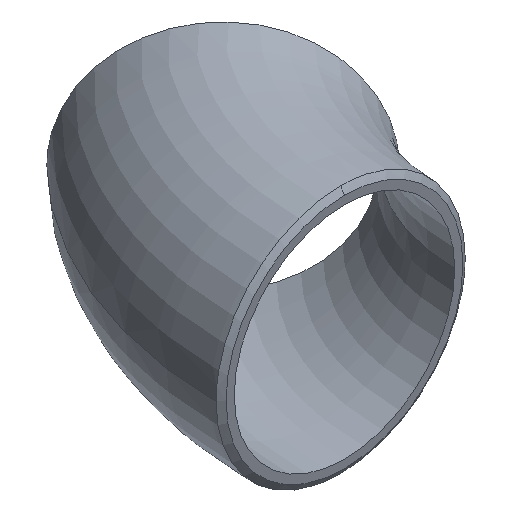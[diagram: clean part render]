
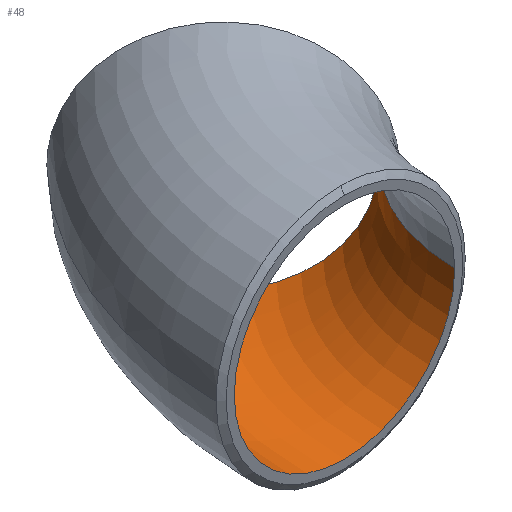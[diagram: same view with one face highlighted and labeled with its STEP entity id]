
A CAD part, isometric view. The second image highlights one B-rep face of the part: STEP entity #48.
In plain terms, the highlighted toroidal (fillet/blend) face has major radius 57.217 mm and minor radius 21.5 mm.
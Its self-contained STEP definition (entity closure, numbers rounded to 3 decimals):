
#19 = DIRECTION ( 'NONE',  ( 1., 0., 0. ) ) ;
#48 = ADVANCED_FACE ( 'NONE', ( #72 ), #316, .F. ) ;
#57 = DIRECTION ( 'NONE',  ( 0., 0., 1. ) ) ;
#58 = DIRECTION ( 'NONE',  ( 0., 0., 1. ) ) ;
#71 = CARTESIAN_POINT ( 'NONE',  ( 57.217, 0., 0. ) ) ;
#72 = FACE_OUTER_BOUND ( 'NONE', #419, .T. ) ;
#75 = VERTEX_POINT ( 'NONE', #324 ) ;
#85 = CARTESIAN_POINT ( 'NONE',  ( 0., 0., 0. ) ) ;
#131 = ORIENTED_EDGE ( 'NONE', *, *, #169, .F. ) ;
#146 = CARTESIAN_POINT ( 'NONE',  ( 16.758, 40.458, 0. ) ) ;
#151 = DIRECTION ( 'NONE',  ( 0., 0., 1. ) ) ;
#167 = CARTESIAN_POINT ( 'NONE',  ( -21.5, 0., 0. ) ) ;
#169 = EDGE_CURVE ( 'NONE', #75, #222, #422, .T. ) ;
#189 = AXIS2_PLACEMENT_3D ( 'NONE', #85, #337, #421 ) ;
#200 = CARTESIAN_POINT ( 'NONE',  ( 31.961, 25.256, 0. ) ) ;
#205 = AXIS2_PLACEMENT_3D ( 'NONE', #146, #315, #151 ) ;
#216 = AXIS2_PLACEMENT_3D ( 'NONE', #309, #57, #529 ) ;
#222 = VERTEX_POINT ( 'NONE', #200 ) ;
#223 = CARTESIAN_POINT ( 'NONE',  ( 21.5, 0., 0. ) ) ;
#235 = CARTESIAN_POINT ( 'NONE',  ( 57.217, 0., 0. ) ) ;
#265 = ORIENTED_EDGE ( 'NONE', *, *, #455, .T. ) ;
#273 = CIRCLE ( 'NONE', #380, 35.717 ) ;
#305 = EDGE_CURVE ( 'NONE', #75, #479, #431, .T. ) ;
#309 = CARTESIAN_POINT ( 'NONE',  ( 57.217, 0., 0. ) ) ;
#315 = DIRECTION ( 'NONE',  ( -0.707, -0.707, 0. ) ) ;
#316 = TOROIDAL_SURFACE ( 'NONE', #351, 57.217, 21.5 ) ;
#324 = CARTESIAN_POINT ( 'NONE',  ( 1.556, 55.661, 0. ) ) ;
#334 = CIRCLE ( 'NONE', #189, 21.5 ) ;
#337 = DIRECTION ( 'NONE',  ( 0., -1., 0. ) ) ;
#351 = AXIS2_PLACEMENT_3D ( 'NONE', #235, #58, #443 ) ;
#380 = AXIS2_PLACEMENT_3D ( 'NONE', #71, #543, #19 ) ;
#391 = ORIENTED_EDGE ( 'NONE', *, *, #396, .F. ) ;
#396 = EDGE_CURVE ( 'NONE', #222, #547, #273, .T. ) ;
#419 = EDGE_LOOP ( 'NONE', ( #131, #466, #265, #391 ) ) ;
#421 = DIRECTION ( 'NONE',  ( 0., 0., 1. ) ) ;
#422 = CIRCLE ( 'NONE', #205, 21.5 ) ;
#431 = CIRCLE ( 'NONE', #216, 78.717 ) ;
#443 = DIRECTION ( 'NONE',  ( 1., 0., 0. ) ) ;
#455 = EDGE_CURVE ( 'NONE', #479, #547, #334, .T. ) ;
#466 = ORIENTED_EDGE ( 'NONE', *, *, #305, .T. ) ;
#479 = VERTEX_POINT ( 'NONE', #167 ) ;
#529 = DIRECTION ( 'NONE',  ( 1., 0., 0. ) ) ;
#543 = DIRECTION ( 'NONE',  ( 0., 0., 1. ) ) ;
#547 = VERTEX_POINT ( 'NONE', #223 ) ;
